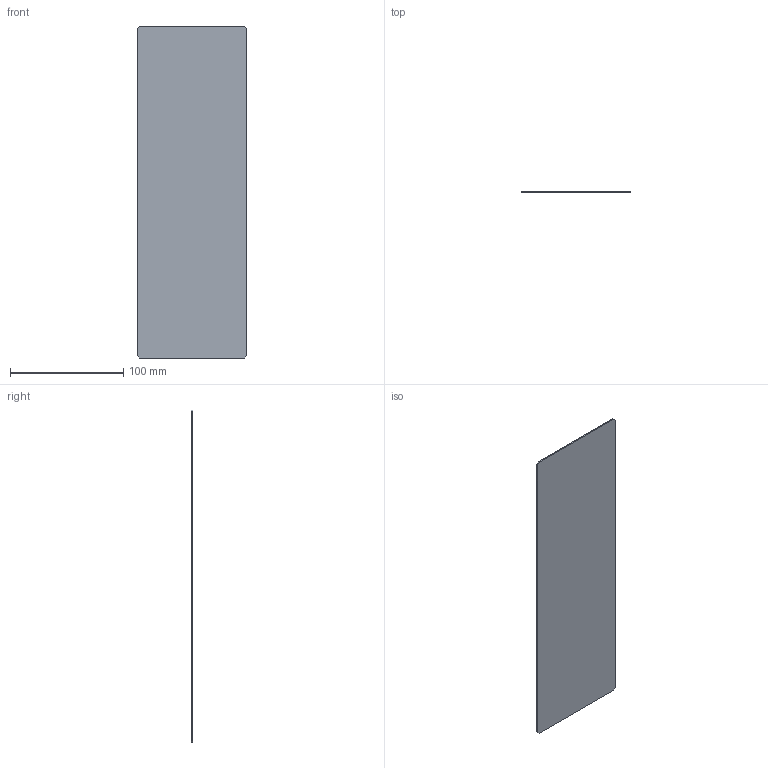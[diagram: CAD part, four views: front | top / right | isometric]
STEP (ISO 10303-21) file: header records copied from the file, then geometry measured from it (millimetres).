
FILE_DESCRIPTION(('CAx-IF Rec.Pracs.---Model Styling and Organization---1.2---2011-12-15','CAx-IF Rec.Pracs.---Geometric and Assembly Validation Properties---4.1---2014-06-16','CAx-IF Rec.Pracs.---PMI Polyline Presentation---2.0---2013-05-24'),'2;1');
FILE_NAME('R5M2W2MFC.stp','2021-05-05T12:53:55+03:00',(''),(''),'STEP Interface 4.4 by CT CoreTechnologie','3D_Evolution4.4 by CT CoreTechnologie','');
FILE_SCHEMA(('AUTOMOTIVE_DESIGN { 1 0 10303 214 1 1 1 1 }'));
Length unit declared in the file: millimetre
Products named in the file (2): R5M2W2MFÑ; RB.1389.00.00.0_-01
Assembly tree (1 placements, depth 2):
  R5M2W2MFÑ
    RB.1389.00.00.0_-01
Bounding box: 97 x 1 x 293 mm (x, y, z)
Surface area: 57601.3 mm2 (no closed solid volume)
Topology: 0 solids, 1 shells, 10 faces, 24 edges, 16 vertices
Faces by surface type: plane 10
Entity records: 361 total; most frequent: CARTESIAN_POINT 52, DIRECTION 48, ORIENTED_EDGE 48, VECTOR 24, LINE 24, EDGE_CURVE 24, VERTEX_POINT 16, AXIS2_PLACEMENT_3D 12
